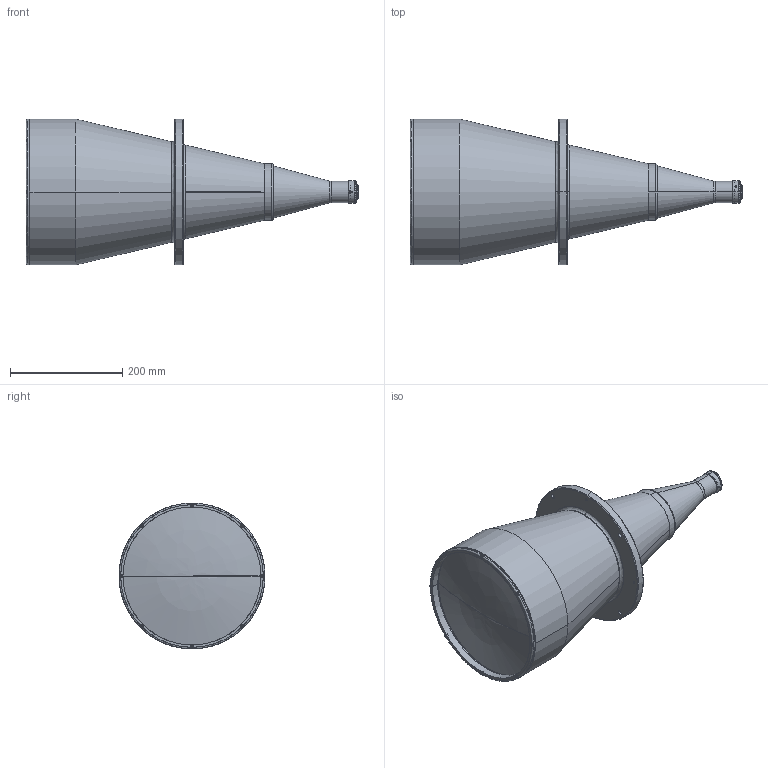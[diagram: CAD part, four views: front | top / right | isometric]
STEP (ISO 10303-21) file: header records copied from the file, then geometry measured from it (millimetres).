
FILE_DESCRIPTION(('LS-TCL-0183'),'2;1');
FILE_NAME('LS-TCL-0183.stp','2026-10-15T21:54:28',('LumaSpec Vision'),('LumaSpec Vision'),'LumaSpec Vision','LumaSpec Vision','');
FILE_SCHEMA(('AUTOMOTIVE_DESIGN { 1 0 10303 214 1 1 1 1 }'));
Length unit declared in the file: millimetre
Products named in the file (208): LumaSpec Vision
Assembly tree (207 placements, depth 2):
  LumaSpec Vision
    LumaSpec Vision
    LumaSpec Vision
    LumaSpec Vision
    LumaSpec Vision
    LumaSpec Vision
    LumaSpec Vision
    LumaSpec Vision
    LumaSpec Vision
    LumaSpec Vision
    LumaSpec Vision
    LumaSpec Vision
    LumaSpec Vision
    LumaSpec Vision
    LumaSpec Vision
    LumaSpec Vision
    LumaSpec Vision
    LumaSpec Vision
    LumaSpec Vision
    LumaSpec Vision
    LumaSpec Vision
    LumaSpec Vision
    LumaSpec Vision
    LumaSpec Vision
    LumaSpec Vision
    LumaSpec Vision
    LumaSpec Vision
    LumaSpec Vision
    LumaSpec Vision
    LumaSpec Vision
    LumaSpec Vision
    LumaSpec Vision
    LumaSpec Vision
    LumaSpec Vision
    LumaSpec Vision
    LumaSpec Vision
    LumaSpec Vision
    LumaSpec Vision
    LumaSpec Vision
    LumaSpec Vision
    LumaSpec Vision
    LumaSpec Vision
    LumaSpec Vision
    LumaSpec Vision
    LumaSpec Vision
    LumaSpec Vision
    LumaSpec Vision
    LumaSpec Vision
    LumaSpec Vision
    LumaSpec Vision
    LumaSpec Vision
    LumaSpec Vision
    LumaSpec Vision
    LumaSpec Vision
    LumaSpec Vision
    LumaSpec Vision
    LumaSpec Vision
    LumaSpec Vision
    LumaSpec Vision
    LumaSpec Vision
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Bounding box: 591.72 x 260 x 260 mm (x, y, z)
Surface area: 446426.6 mm2 (no closed solid volume)
Topology: 0 solids, 207 shells, 207 faces, 4196 edges, 4190 vertices
Faces by surface type: revolution 105, bspline 102
Entity records: 69418 total; most frequent: CARTESIAN_POINT 28643, B_SPLINE_CURVE_WITH_KNOTS 7564, ORIENTED_EDGE 4190, EDGE_CURVE 4190, VERTEX_POINT 4190, SURFACE_CURVE 4190, PCURVE 4190, DEFINITIONAL_REPRESENTATION 4190
